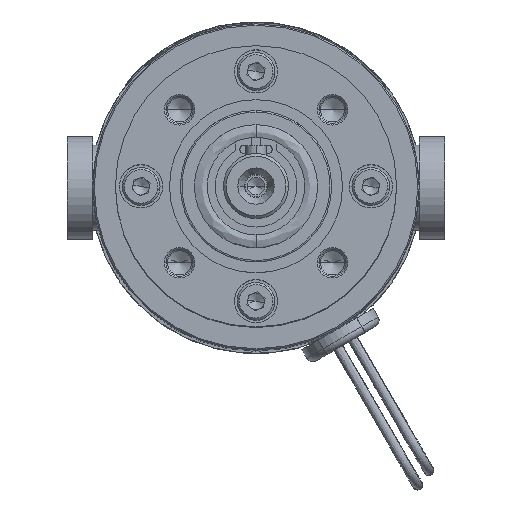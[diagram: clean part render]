
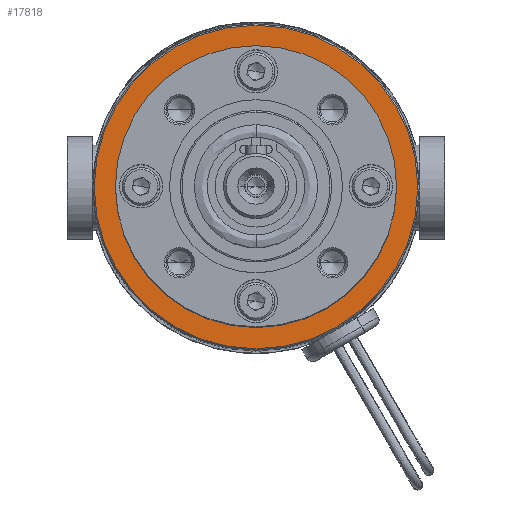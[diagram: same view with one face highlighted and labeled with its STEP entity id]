
A CAD part, top view. The second image highlights one B-rep face of the part: STEP entity #17818.
In plain terms, the highlighted planar face has unit normal (0, 0, 1).
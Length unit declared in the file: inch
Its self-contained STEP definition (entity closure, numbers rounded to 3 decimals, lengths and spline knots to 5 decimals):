
#1881 = CARTESIAN_POINT ( 'NONE',  ( 0., 1.1875, -0.68406 ) ) ;
#2069 = EDGE_CURVE ( 'NONE', #119022, #2937, #116211, .T. ) ;
#2442 = CARTESIAN_POINT ( 'NONE',  ( -1.1775, 0., -0.68406 ) ) ;
#2937 = VERTEX_POINT ( 'NONE', #102046 ) ;
#3279 = DIRECTION ( 'NONE',  ( 0., 0., 1. ) ) ;
#11244 = PLANE ( 'NONE',  #11735 ) ;
#11669 = DIRECTION ( 'NONE',  ( 1., 0., 0. ) ) ;
#11735 = AXIS2_PLACEMENT_3D ( 'NONE', #1881, #70137, #11669 ) ;
#17048 = AXIS2_PLACEMENT_3D ( 'NONE', #33826, #102003, #43643 ) ;
#17818 = ADVANCED_FACE ( 'NONE', ( #120244, #68401 ), #11244, .T. ) ;
#20269 = AXIS2_PLACEMENT_3D ( 'NONE', #23737, #91921, #33619 ) ;
#22165 = CIRCLE ( 'NONE', #17048, 1.1775 ) ;
#23737 = CARTESIAN_POINT ( 'NONE',  ( 0., 0., -0.68406 ) ) ;
#31852 = DIRECTION ( 'NONE',  ( 0., 0., 1. ) ) ;
#33619 = DIRECTION ( 'NONE',  ( 1., 0., 0. ) ) ;
#33826 = CARTESIAN_POINT ( 'NONE',  ( 0., 0., -0.68406 ) ) ;
#34389 = EDGE_CURVE ( 'NONE', #72797, #96748, #22165, .T. ) ;
#34880 = EDGE_LOOP ( 'NONE', ( #68211, #104187 ) ) ;
#41527 = EDGE_LOOP ( 'NONE', ( #94247, #94991 ) ) ;
#43643 = DIRECTION ( 'NONE',  ( 1., 0., 0. ) ) ;
#48772 = EDGE_CURVE ( 'NONE', #96748, #72797, #60723, .T. ) ;
#56857 = AXIS2_PLACEMENT_3D ( 'NONE', #90155, #31852, #100025 ) ;
#60723 = CIRCLE ( 'NONE', #115251, 1.1775 ) ;
#61688 = CARTESIAN_POINT ( 'NONE',  ( 0., 0., -0.68406 ) ) ;
#68211 = ORIENTED_EDGE ( 'NONE', *, *, #2069, .F. ) ;
#68401 = FACE_BOUND ( 'NONE', #34880, .T. ) ;
#70137 = DIRECTION ( 'NONE',  ( 0., 0., 1. ) ) ;
#71558 = DIRECTION ( 'NONE',  ( 1., 0., 0. ) ) ;
#72797 = VERTEX_POINT ( 'NONE', #2442 ) ;
#80925 = EDGE_CURVE ( 'NONE', #2937, #119022, #113305, .T. ) ;
#89394 = CARTESIAN_POINT ( 'NONE',  ( 1.1775, 0., -0.68406 ) ) ;
#90155 = CARTESIAN_POINT ( 'NONE',  ( 0., 0., -0.68406 ) ) ;
#91921 = DIRECTION ( 'NONE',  ( 0., 0., 1. ) ) ;
#94247 = ORIENTED_EDGE ( 'NONE', *, *, #34389, .T. ) ;
#94991 = ORIENTED_EDGE ( 'NONE', *, *, #48772, .T. ) ;
#96748 = VERTEX_POINT ( 'NONE', #89394 ) ;
#100025 = DIRECTION ( 'NONE',  ( 1., 0., 0. ) ) ;
#102003 = DIRECTION ( 'NONE',  ( 0., 0., 1. ) ) ;
#102046 = CARTESIAN_POINT ( 'NONE',  ( -0.9595, 0., -0.68406 ) ) ;
#104187 = ORIENTED_EDGE ( 'NONE', *, *, #80925, .F. ) ;
#113305 = CIRCLE ( 'NONE', #56857, 0.9595 ) ;
#115192 = CARTESIAN_POINT ( 'NONE',  ( 0.9595, 0., -0.68406 ) ) ;
#115251 = AXIS2_PLACEMENT_3D ( 'NONE', #61688, #3279, #71558 ) ;
#116211 = CIRCLE ( 'NONE', #20269, 0.9595 ) ;
#119022 = VERTEX_POINT ( 'NONE', #115192 ) ;
#120244 = FACE_OUTER_BOUND ( 'NONE', #41527, .T. ) ;
